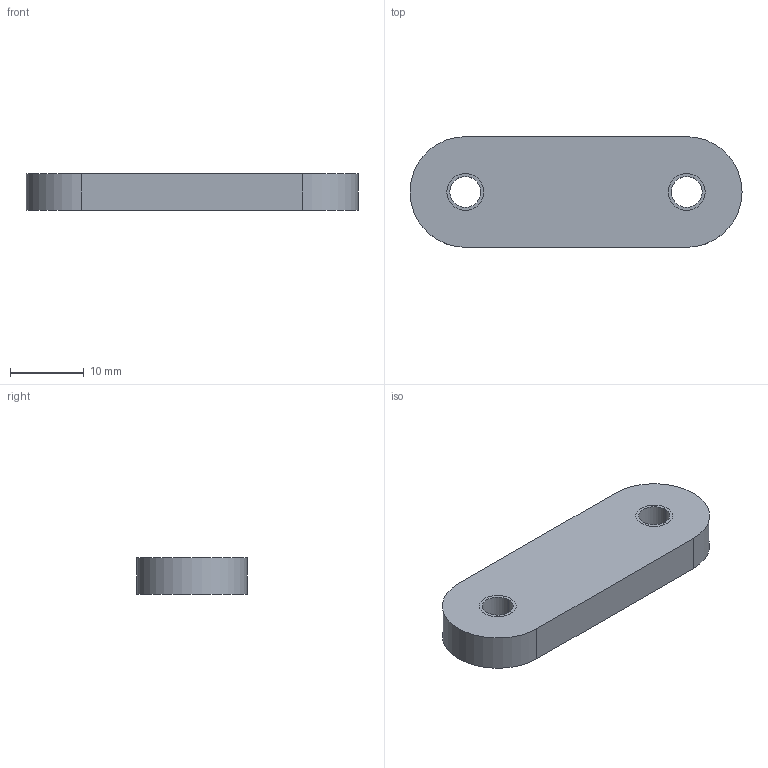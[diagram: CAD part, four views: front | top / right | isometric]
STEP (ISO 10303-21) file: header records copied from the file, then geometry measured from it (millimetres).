
FILE_DESCRIPTION((''),'2;1');
FILE_NAME('0000206355','2024-01-01T18:45:34',('Wyndorps'),(''),'CREO PARAMETRIC BY PTC INC, 2022484','CREO PARAMETRIC BY PTC INC, 2022484','');
FILE_SCHEMA(('CONFIG_CONTROL_DESIGN'));
Length unit declared in the file: millimetre
Products named in the file (1): 0000206355
Bounding box: 45 x 15 x 5 mm (x, y, z)
Volume: 2995 mm3; surface area: 2022.7 mm2
Topology: 1 solids, 3 shells, 14 faces, 36 edges, 24 vertices
Faces by surface type: cylinder 10, plane 4
Entity records: 489 total; most frequent: DIRECTION 86, CARTESIAN_POINT 75, ORIENTED_EDGE 64, EDGE_CURVE 36, AXIS2_PLACEMENT_3D 35, VERTEX_POINT 24, CIRCLE 20, EDGE_LOOP 18
